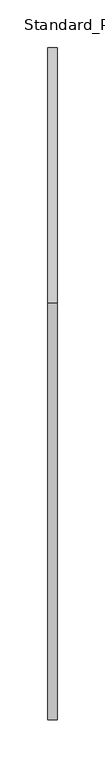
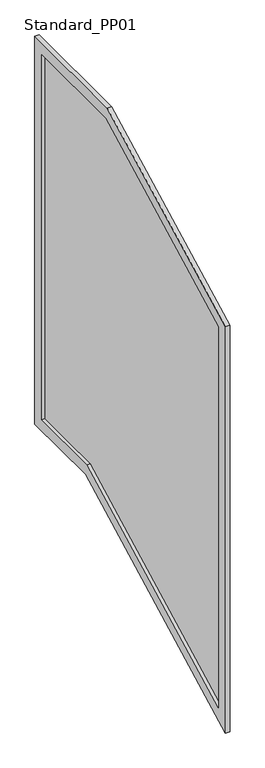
"""IFC4 building model written with IfcOpenShell, lengths in millimetres: railing geometry, Baluster-Landing-Panel-VIVA-STRUC-Lower : Standard_PP01."""

import ifcopenshell
import ifcopenshell.guid

model = None  # the IFC model being written
_history = None  # IfcOwnerHistory: only IFC2X3 demands one
_inside = {}  # id of a spatial element -> (the spatial element, [elements in it])
_under = {}  # id of a project, library or spatial element -> (it, [spatial elements below it])
_declared = {}  # id of a project -> (the project, [libraries it declares])
_typed = {}  # id of a type object -> (the type object, [elements of that type])
_made_of = {}  # id of a material, layer set ... -> (it, [elements and type objects made of it])


def new_model(schema):
    """Start an empty IFC model of exactly this schema.

    Asked for "IFC4X3", IfcOpenShell would pick the latest addendum, in which some entities
    have other attributes; the version numbers below select the first issue.
    IFC2X3 requires an IfcOwnerHistory on every rooted entity: one is made here for all.
    """
    global model, _history
    if schema == "IFC4X3":
        model = ifcopenshell.file(schema_version=(4, 3, 0, 0))
    else:
        model = ifcopenshell.file(schema=schema)
    _inside.clear()
    _under.clear()
    _declared.clear()
    _typed.clear()
    _made_of.clear()
    _history = None
    if model.schema == "IFC2X3":
        org = make("IfcOrganization", Name="unknown")
        user = make(
            "IfcPersonAndOrganization",
            ThePerson=make("IfcPerson", FamilyName="unknown"),
            TheOrganization=org,
        )
        app = make(
            "IfcApplication",
            ApplicationDeveloper=org,
            Version="unknown",
            ApplicationFullName="unknown",
            ApplicationIdentifier="unknown",
        )
        _history = make(
            "IfcOwnerHistory",
            OwningUser=user,
            OwningApplication=app,
            ChangeAction="ADDED",
            CreationDate=0,
        )
    return model


def make(cls, **values):
    """One entity of the class cls with the attributes given. An attribute that is None is left unset."""
    return model.create_entity(
        cls, **{name: value for name, value in values.items() if value is not None}
    )


def rooted(cls, **values):
    """An entity with a GlobalId (a new one), such as an element, a storey or a relation."""
    return make(cls, GlobalId=ifcopenshell.guid.new(), OwnerHistory=_history, **values)


def si_unit(unit_type, name, prefix=None):
    """IfcSIUnit, for example si_unit("LENGTHUNIT", "METRE", prefix="MILLI")."""
    return make("IfcSIUnit", UnitType=unit_type, Prefix=prefix, Name=name)


def assignment(units):
    """IfcUnitAssignment: the units of a project."""
    return None if units is None else make("IfcUnitAssignment", Units=units)


def point(xyz):
    """IfcCartesianPoint."""
    return None if xyz is None else make("IfcCartesianPoint", Coordinates=xyz)


def direction(xyz):
    """IfcDirection."""
    return None if xyz is None else make("IfcDirection", DirectionRatios=xyz)


def frame(location, z_axis=None, x_axis=None):
    """IfcAxis2Placement3D, a coordinate frame: its origin and axes. An axis left out is left unset."""
    return make(
        "IfcAxis2Placement3D",
        Location=point(location),
        Axis=direction(z_axis),
        RefDirection=direction(x_axis),
    )


def origin():
    """The frame at (0, 0, 0) with its axes left unset."""
    return frame((0.0, 0.0, 0.0))


def place(relative_to, where):
    """IfcLocalPlacement: puts the frame where relative to a parent placement (None: the world)."""
    return make(
        "IfcLocalPlacement", PlacementRelTo=relative_to, RelativePlacement=where
    )


def context(
    kind, dimensions, precision=None, world=None, true_north=None, identifier=None
):
    """IfcGeometricRepresentationContext, for example the 3D "Model" context."""
    return make(
        "IfcGeometricRepresentationContext",
        ContextIdentifier=identifier,
        ContextType=kind,
        CoordinateSpaceDimension=dimensions,
        Precision=precision,
        WorldCoordinateSystem=world,
        TrueNorth=true_north,
    )


def project(units=None, contexts=None):
    """IfcProject with its units and contexts."""
    return rooted(
        "IfcProject",
        Name="project",
        RepresentationContexts=contexts,
        UnitsInContext=assignment(units),
    )


def spatial(cls, under=None, at=None, **own):
    """A site, building, storey or space (cls), placed at a placement, below another one or the project."""
    s = rooted(cls, ObjectPlacement=at, **own)
    if under is not None:
        _under.setdefault(under.id(), (under, []))[1].append(s)
    return s


def polyline(points):
    """IfcPolyline through the points."""
    return make("IfcPolyline", Points=[point(p) for p in points])


def outline(outer, holes=None, kind="AREA"):
    """IfcArbitraryClosedProfileDef: a profile drawn as a closed curve; with holes, ...WithVoids."""
    if holes is None:
        return make("IfcArbitraryClosedProfileDef", ProfileType=kind, OuterCurve=outer)
    return make(
        "IfcArbitraryProfileDefWithVoids",
        ProfileType=kind,
        OuterCurve=outer,
        InnerCurves=holes,
    )


def extrude(swept, where, along, depth):
    """IfcExtrudedAreaSolid: the profile swept, set in the frame where, extruded along a direction by depth."""
    return make(
        "IfcExtrudedAreaSolid",
        SweptArea=swept,
        Position=where,
        ExtrudedDirection=direction(along),
        Depth=depth,
    )


def shape(context_of_items, identifier, shape_type, items):
    """IfcShapeRepresentation: the items that make up one representation, for example the "Body"."""
    return make(
        "IfcShapeRepresentation",
        ContextOfItems=context_of_items,
        RepresentationIdentifier=identifier,
        RepresentationType=shape_type,
        Items=items,
    )


def source(mapping_origin, context_of_items, identifier, shape_type, items):
    """IfcRepresentationMap: a shape defined once, which mapped items show again and again."""
    return make(
        "IfcRepresentationMap",
        MappingOrigin=mapping_origin,
        MappedRepresentation=shape(context_of_items, identifier, shape_type, items),
    )


def transform(
    local_origin,
    x_axis=None,
    y_axis=None,
    z_axis=None,
    scale=None,
    scale2=None,
    scale3=None,
    uniform=True,
):
    """IfcCartesianTransformationOperator3D, or its non-uniform kind. x_axis, y_axis, z_axis: its Axis1, 2, 3."""
    if uniform:
        return make(
            "IfcCartesianTransformationOperator3D",
            Axis1=direction(x_axis),
            Axis2=direction(y_axis),
            LocalOrigin=point(local_origin),
            Scale=scale,
            Axis3=direction(z_axis),
        )
    return make(
        "IfcCartesianTransformationOperator3DnonUniform",
        Axis1=direction(x_axis),
        Axis2=direction(y_axis),
        LocalOrigin=point(local_origin),
        Scale=scale,
        Axis3=direction(z_axis),
        Scale2=scale2,
        Scale3=scale3,
    )


def mapped(mapping_source, mapping_target):
    """IfcMappedItem: shows the shape of a source again, moved by a transform."""
    return make(
        "IfcMappedItem", MappingSource=mapping_source, MappingTarget=mapping_target
    )


def made_of(thing, what):
    """Note that an element or type object is made of a material, layer set ...; save() writes the relation."""
    if what is not None:
        _made_of.setdefault(what.id(), (what, []))[1].append(thing)
    return thing


def element(
    cls,
    number,
    at=None,
    inside=None,
    cuts=None,
    type_object=None,
    material=None,
    context=None,
    identifier="Body",
    shape_type=None,
    held_by="IfcProductDefinitionShape",
    body=None,
    shapes=None,
    **own,
):
    """One element of the class cls, such as IfcWall. Its Tag is "e" and its number.

    at: its placement. inside: the storey or other place that contains it. cuts: it is an
    opening in that element (IfcRelVoidsElement). A single representation is given by context,
    identifier, shape_type and body (its items); several are given by shapes. held_by: the class
    of the entity that holds the representations. save() writes the other relations.
    """
    e = rooted(cls, Tag="e%d" % number, ObjectPlacement=at, **own)
    if body is not None:
        shapes = [shape(context, identifier, shape_type, body)]
    if shapes is not None:
        e.Representation = make(held_by, Representations=shapes)
    if inside is not None:
        _inside.setdefault(inside.id(), (inside, []))[1].append(e)
    if cuts is not None:
        rooted(
            "IfcRelVoidsElement", RelatingBuildingElement=cuts, RelatedOpeningElement=e
        )
    if type_object is not None:
        _typed.setdefault(type_object.id(), (type_object, []))[1].append(e)
    return made_of(e, material)


def aggregate(whole, parts):
    """IfcRelAggregates: a whole, such as a stair, and the parts it consists of."""
    return rooted("IfcRelAggregates", RelatingObject=whole, RelatedObjects=parts)


def save(model, path):
    """Write the relations noted so far, then the file.

    IfcRelAggregates (storeys below a building ...), IfcRelContainedInSpatialStructure (elements
    in a storey), IfcRelDefinesByType, IfcRelAssociatesMaterial and IfcRelDeclares: one each for
    every whole, place, type object, material and project.
    """
    for whole, parts in _under.values():
        aggregate(whole, parts)
    for where, things in _inside.values():
        rooted(
            "IfcRelContainedInSpatialStructure",
            RelatedElements=things,
            RelatingStructure=where,
        )
    for kind, things in _typed.values():
        rooted("IfcRelDefinesByType", RelatedObjects=things, RelatingType=kind)
    for what, things in _made_of.values():
        rooted("IfcRelAssociatesMaterial", RelatedObjects=things, RelatingMaterial=what)
    for by, libraries in _declared.values():
        rooted("IfcRelDeclares", RelatingContext=by, RelatedDefinitions=libraries)
    model.write(path)


def standard_pp01_6f34aec3(model_context):
    return source(origin(), model_context, "Body", "SweptSolid", [
        extrude(outline(polyline([(508.8760777, 86.8304592), (25.4, -164.8512566), (25.4, 689.579329), (441.4187834, 906.145), (676.4363344, 906.145), (676.4363344, 86.8304592), (508.8760777, 86.8304592)])), frame((14.2584857, 0.0, 0.0), z_axis=(1.0, 0.0, 0.0), x_axis=(0.0, 1.0, 0.0)), (0.0, 0.0, 1.0), 2.9972),
        extrude(outline(polyline([(0.0, -206.7091611), (0.0, 704.9924273), (435.2034429, 931.545), (701.8363344, 931.545), (701.8363344, 61.4304592), (515.0914182, 61.4304592), (0.0, -206.7091611)]), holes=[polyline([(676.4363344, 906.145), (441.4187834, 906.145), (25.4, 689.579329), (25.4, -164.8512566), (508.8760777, 86.8304592), (676.4363344, 86.8304592), (676.4363344, 906.145)])]), frame((7.6036857, 0.0, 0.0), z_axis=(1.0, 0.0, 0.0), x_axis=(0.0, 1.0, 0.0)), (0.0, 0.0, 1.0), 9.652),
    ])


if __name__ == "__main__":
    model = new_model("IFC4")
    model_context = context("Model", 3, world=origin())
    ifc_project = project(units=[si_unit("LENGTHUNIT", "METRE", prefix="MILLI")], contexts=[model_context])
    site = spatial("IfcSite", under=ifc_project)
    building = spatial("IfcBuilding", under=site)
    placement = place(None, origin())
    standard_pp01_shape = standard_pp01_6f34aec3(model_context)
    element("IfcRailing", 1, ObjectType="Baluster-Landing-Panel-VIVA-STRUC-Lower : Standard_PP01", at=placement, inside=building, context=model_context, shape_type="MappedRepresentation", body=[
        mapped(standard_pp01_shape, transform((0.0, 0.0, 0.0), x_axis=(1.0, 0.0, 0.0), y_axis=(0.0, 1.0, 0.0), z_axis=(0.0, 0.0, 1.0))),
    ])
    save(model, "model.ifc")
